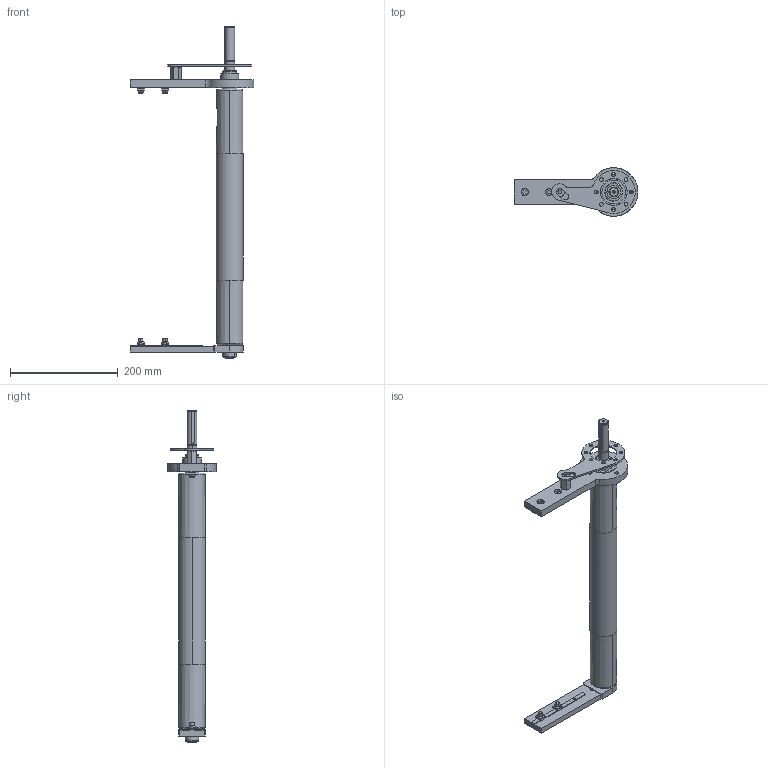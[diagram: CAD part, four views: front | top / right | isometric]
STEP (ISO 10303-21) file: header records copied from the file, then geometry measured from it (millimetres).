
FILE_DESCRIPTION (( 'STEP AP203' ), '1' );
FILE_NAME ('084.050.KD.44.450.STEP', '2019-07-29T10:11:26', ( '' ), ( '' ), 'SwSTEP 2.0', 'SolidWorks 2018', '' );
FILE_SCHEMA (( 'CONFIG_CONTROL_DESIGN' ));
Length unit declared in the file: millimetre
Products named in the file (13): 084.807.002_084.807.002; 084.811.004; 084.807.001_084.807.001; 084.301.000 VITI ALUSIC_084.301.003; 084.810.001; 084.802.034_084.802.034; 084.811.002; 084.815.129_Default<A macchina>; 084.802.027; 084.050.KD.44.450; 084.802.017_084.802.017; 084.302.000 DADI ALUSIC 13x13_084.302.004; 084.807.005
Assembly tree (19 placements, depth 2):
  084.050.KD.44.450
    084.807.002_084.807.002
    084.802.017_084.802.017
    084.811.004
    084.815.129_Default<A macchina>
    084.810.001  x2
    084.301.000 VITI ALUSIC_084.301.003  x4
    084.302.000 DADI ALUSIC 13x13_084.302.004  x4
    084.802.027
    084.807.005
    084.807.001_084.807.001
    084.802.034_084.802.034
    084.811.002
Bounding box: 230 x 90 x 616 mm (x, y, z)
Volume: 684728.5 mm3; surface area: 364467.8 mm2
Topology: 24 solids, 25 shells, 624 faces, 1569 edges, 1016 vertices
Faces by surface type: plane 254, cylinder 233, torus 68, cone 60, sphere 9
Entity records: 16601 total; most frequent: CARTESIAN_POINT 3000, DIRECTION 2736, ORIENTED_EDGE 2386, EDGE_CURVE 1193, AXIS2_PLACEMENT_3D 1103, VERTEX_POINT 773, CIRCLE 607, EDGE_LOOP 572
